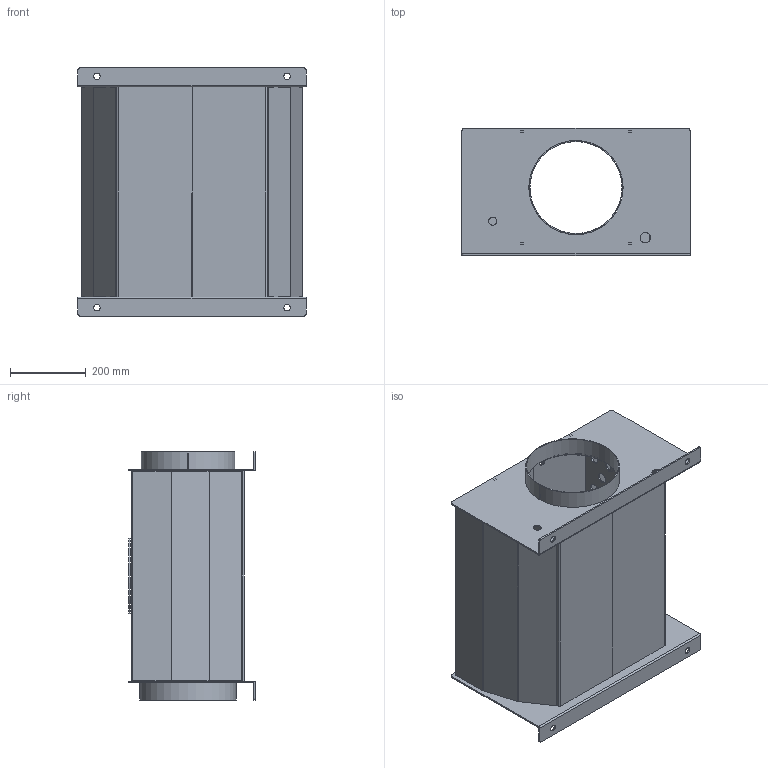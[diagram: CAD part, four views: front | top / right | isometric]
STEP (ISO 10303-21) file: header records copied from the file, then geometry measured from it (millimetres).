
FILE_DESCRIPTION (( 'STEP AP203' ), '1' );
FILE_NAME ('RACS 250.STEP', '2013-01-24T13:48:45', ( 'Utente' ), ( '' ), 'SwSTEP 2.0', 'SolidWorks 2007', '' );
FILE_SCHEMA (( 'CONFIG_CONTROL_DESIGN' ));
Length unit declared in the file: millimetre
Products named in the file (8): Piastra uscita fumi RACS 250; Ingresso fumi RACS 250; RACS 250; Piastra ingresso fumi RACS 250; Piastra tubiera RACS 250; Testata idraulica RACS 250; Coperchio ispezione RACS 300; Uscita fumi RACS 250
Assembly tree (9 placements, depth 2):
  RACS 250
    Uscita fumi RACS 250
    Testata idraulica RACS 250  x2
    Piastra tubiera RACS 250  x2
    Coperchio ispezione RACS 300
    Ingresso fumi RACS 250
    Piastra uscita fumi RACS 250
    Piastra ingresso fumi RACS 250
Bounding box: 602 x 334.9 x 655 mm (x, y, z)
Volume: 6207010.4 mm3; surface area: 3282372.4 mm2
Topology: 9 solids, 9 shells, 435 faces, 1155 edges, 738 vertices
Faces by surface type: cylinder 251, plane 184
Entity records: 9739 total; most frequent: DIRECTION 1601, CARTESIAN_POINT 1480, ORIENTED_EDGE 1454, EDGE_CURVE 727, AXIS2_PLACEMENT_3D 587, VERTEX_POINT 466, VECTOR 427, LINE 427
